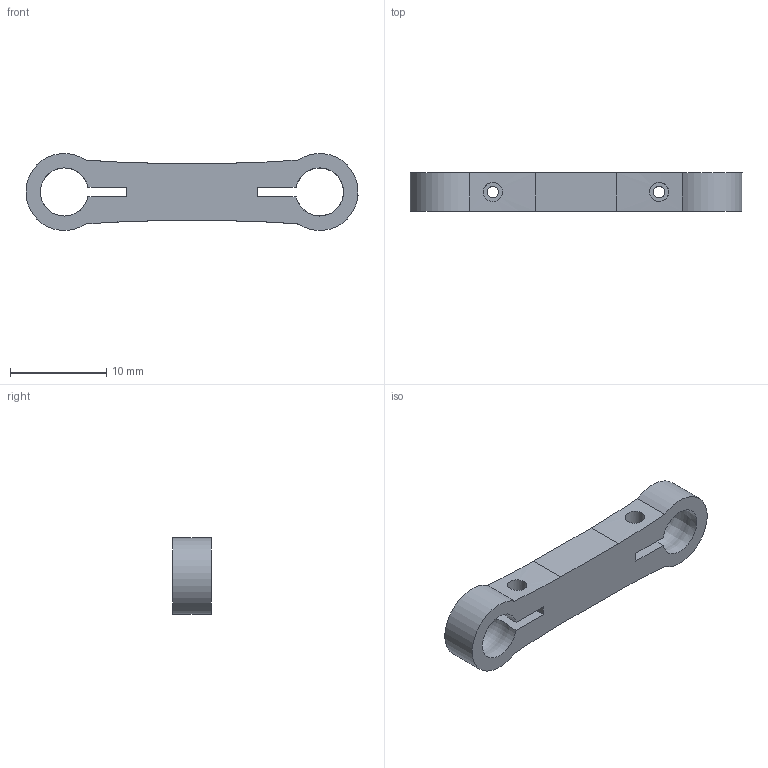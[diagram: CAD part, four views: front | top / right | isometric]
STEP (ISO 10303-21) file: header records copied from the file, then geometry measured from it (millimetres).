
FILE_DESCRIPTION(('Open CASCADE Model'),'2;1');
FILE_NAME('Open CASCADE Shape Model','2026-10-28T14:27:55',('Author'),( 'Open CASCADE'),'Open CASCADE STEP processor 7.9','Open CASCADE 7.9' ,'Unknown');
FILE_SCHEMA(('AUTOMOTIVE_DESIGN { 1 0 10303 214 1 1 1 1 }'));
Length unit declared in the file: millimetre
Products named in the file (1): Open CASCADE STEP translator 7.9 1
Bounding box: 34.47 x 4 x 7.98 mm (x, y, z)
Volume: 661.6 mm3; surface area: 888.2 mm2
Topology: 1 solids, 1 shells, 22 faces, 61 edges, 41 vertices
Faces by surface type: cylinder 10, plane 10, revolution 2
Full cylindrical faces by diameter (mm): 1.2 x1, 2 x1
Entity records: 13521 total; most frequent: CARTESIAN_POINT 12436, DIRECTION 146, ORIENTED_EDGE 122, PCURVE 122, DEFINITIONAL_REPRESENTATION 122, B_SPLINE_CURVE_WITH_KNOTS 91, EDGE_CURVE 61, LINE 60
